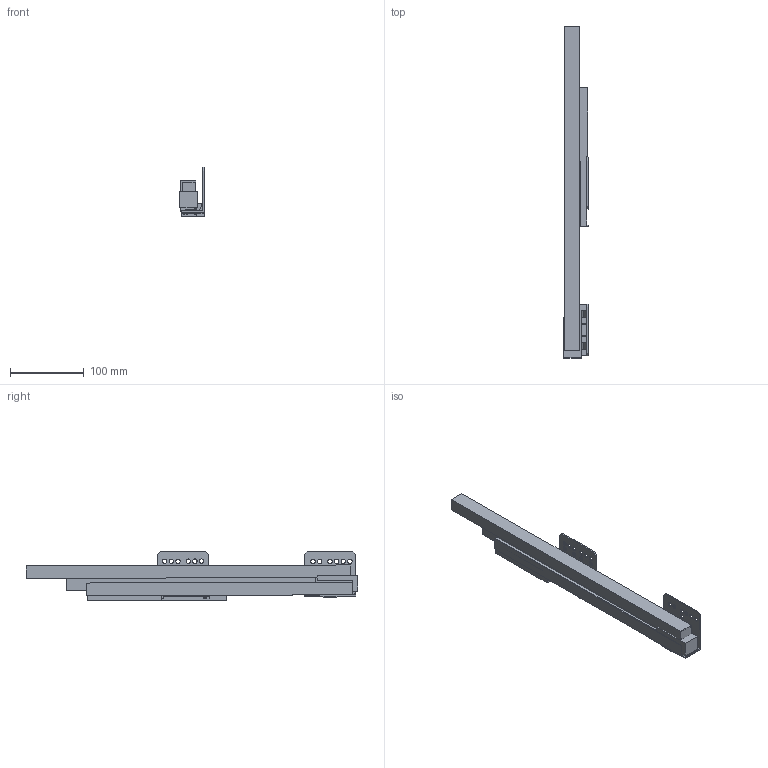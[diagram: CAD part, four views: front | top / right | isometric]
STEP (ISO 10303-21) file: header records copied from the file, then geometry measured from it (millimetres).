
FILE_DESCRIPTION (( 'STEP AP214' ), '1' );
FILE_NAME ('_IMOS Dynamic-XP VA 40kg NL450 RE.step', '2010-07-07T08:06:43', ( 'grass' ), ( '' ), 'SwSTEP 2.0', 'SolidWorks 2010', '' );
FILE_SCHEMA (( 'AUTOMOTIVE_DESIGN' ));
Length unit declared in the file: millimetre
Products named in the file (1): _IMOS Dynamic-XP VA 40kg NL450 RE
Bounding box: 32.79 x 449.89 x 66.67 mm (x, y, z)
Volume: 398985.8 mm3; surface area: 141999.3 mm2
Topology: 7 solids, 7 shells, 151 faces, 411 edges, 274 vertices
Faces by surface type: plane 111, cylinder 40
Entity records: 4913 total; most frequent: CARTESIAN_POINT 837, ORIENTED_EDGE 822, DIRECTION 795, EDGE_CURVE 411, VECTOR 331, LINE 331, VERTEX_POINT 274, AXIS2_PLACEMENT_3D 232
